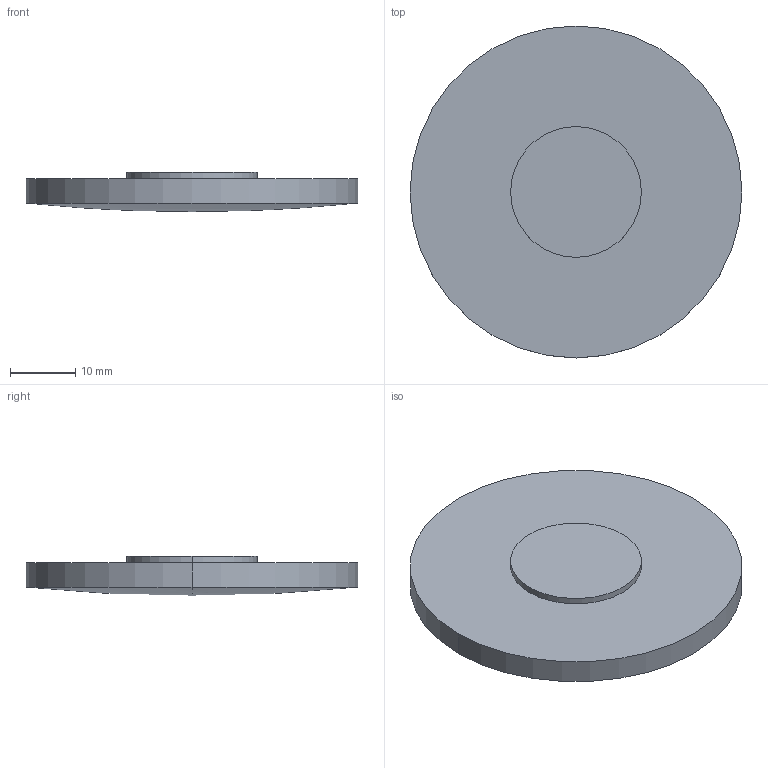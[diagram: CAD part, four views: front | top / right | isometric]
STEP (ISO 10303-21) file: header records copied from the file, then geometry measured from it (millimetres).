
FILE_DESCRIPTION(('STEP AP214'),'1');
FILE_NAME('LLR-51610.STEP','2020-03-09T17:42:05',(' '),(' '),'Spatial InterOp 3D',' ',' ');
FILE_SCHEMA(('AUTOMOTIVE_DESIGN { 1 0 10303 214 1 1 1 1 }'));
Length unit declared in the file: millimetre
Products named in the file (1): 1
Bounding box: 50.8 x 50.8 x 6 mm (x, y, z)
Volume: 9135.1 mm3; surface area: 5341.1 mm2
Topology: 2 solids, 2 shells, 9 faces, 16 edges, 9 vertices
Faces by surface type: cylinder 4, plane 3, sphere 2
Entity records: 229 total; most frequent: DIRECTION 46, CARTESIAN_POINT 34, ORIENTED_EDGE 28, AXIS2_PLACEMENT_3D 21, EDGE_CURVE 14, CIRCLE 10, ADVANCED_FACE 9, FACE_OUTER_BOUND 9
